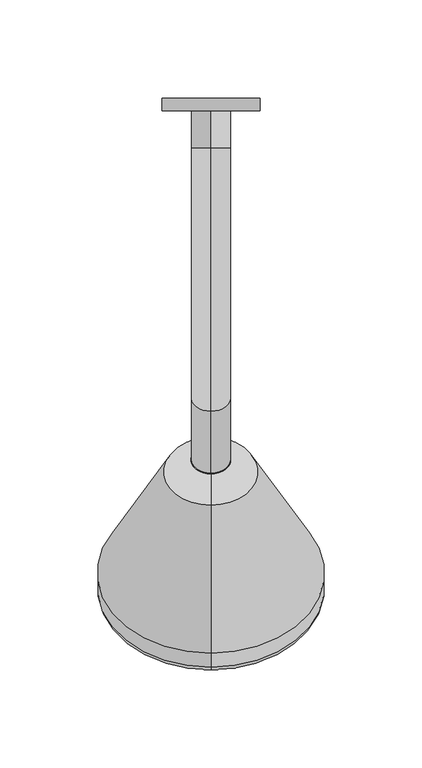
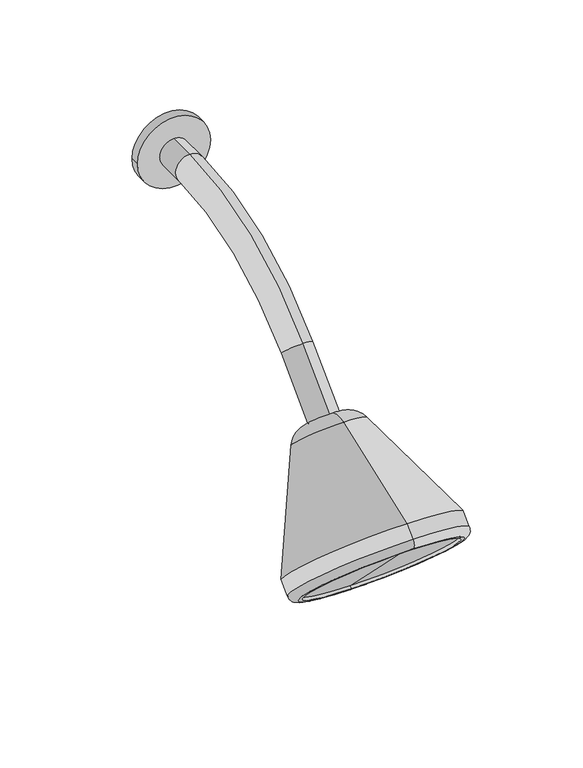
"""IFC4 building model written with IfcOpenShell, lengths in millimetres: flow terminal geometry, Regadera : Accesorios_baño."""

from ifc_helpers import new_model, si_unit, point, frame, frame_2d, origin, place, context, project, spatial, polyline, circle_curve, ellipse_curve, trimmed, segment, composite_curve, outline, extrude, source, transform, mapped, element, save
from ifc_brep_helpers import plane_surface, cylinder_surface, revolved_surface, advanced_brep


def flow_terminal_63621eee(model_context):
    return source(origin(), model_context, "Body", "SolidModel", [
        extrude(outline(composite_curve([segment(trimmed(circle_curve(frame_2d((1900.0, 125.0)), 25.0), [point((1900.0, 100.0))], [point((1900.0, 150.0))], False, "CARTESIAN"), True, "CONTINUOUS"), segment(trimmed(circle_curve(frame_2d((1900.0, 125.0)), 25.0), [point((1900.0, 150.0))], [point((1900.0, 100.0))], False, "CARTESIAN"), True, "CONTINUOUS")], self_intersect=False)), frame((0.0, -16.4821489, 0.0), z_axis=(0.0, 1.0, 0.0), x_axis=(0.0, 0.0, 1.0)), (0.0, 0.0, 1.0), 6.4821489),
        advanced_brep(
        [(125.0, -217.6624735, 1826.3331882), (125.0, -201.9255696, 1822.8444006), (125.0, -187.1555994, 1808.0744304), (125.0, -183.6668118, 1792.3375265), (125.0, -293.255056, 1798.8197382), (125.0, -211.1802618, 1716.744944), (125.0, -300.3261238, 1791.7486704), (125.0, -218.2513296, 1709.6738762), (125.0, -300.3261238, 1784.6776026), (125.0, -225.3223974, 1709.6738762), (125.0, -298.6229509, 1782.9744296), (125.0, -227.0255704, 1711.3770491), (125.0, -297.2087373, 1784.3886432), (125.0, -225.6113568, 1712.7912627), (125.0, -261.4100471, 1748.5899529), (125.0, -194.5405845, 1815.4594155)],
        [
            (0, 1, circle_curve(frame((125.0, -212.5321714, 1812.2377988), z_axis=(-1.0000000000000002, 0.0, 0.0), x_axis=(0.0, 0.0, -1.0000000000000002)), 15.0)),
            (1, 2, circle_curve(frame((125.0, -194.5405845, 1815.4594155), z_axis=(0.0, -0.7071067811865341, -0.707106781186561), x_axis=(0.0, 0.707106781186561, -0.7071067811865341)), 10.4439461)),
            (2, 3, circle_curve(frame((125.0, -197.7622012, 1797.4678286), z_axis=(-1.0000000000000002, 0.0, 0.0), x_axis=(0.0, -1.0000000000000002, 0.0)), 15.0)),
            (3, 0, circle_curve(frame((125.0, -200.6646427, 1809.3353573), z_axis=(0.0, 0.7071067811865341, 0.707106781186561), x_axis=(0.0, 0.707106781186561, -0.7071067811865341)), 24.0385629)),
            (2, 1, circle_curve(frame((125.0, -194.5405845, 1815.4594155), z_axis=(0.0, -0.7071067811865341, -0.707106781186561), x_axis=(0.0, 0.707106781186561, -0.7071067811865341)), 10.4439461)),
            (0, 3, circle_curve(frame((125.0, -200.6646427, 1809.3353573), z_axis=(0.0, 0.7071067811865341, 0.707106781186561), x_axis=(0.0, 0.707106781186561, -0.7071067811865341)), 24.0385629)),
            (4, 0),
            (3, 5),
            (5, 4, circle_curve(frame((125.0, -252.2176589, 1757.7823411), z_axis=(0.0, 0.7071067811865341, 0.707106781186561), x_axis=(0.0, 0.707106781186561, -0.7071067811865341)), 58.0356436)),
            (4, 5, circle_curve(frame((125.0, -252.2176589, 1757.7823411), z_axis=(0.0, 0.7071067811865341, 0.707106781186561), x_axis=(0.0, 0.707106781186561, -0.7071067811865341)), 58.0356436)),
            (6, 4),
            (5, 7),
            (7, 6, circle_curve(frame((125.0, -259.2887267, 1750.7112733), z_axis=(0.0, 0.7071067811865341, 0.707106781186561), x_axis=(0.0, 0.707106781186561, -0.7071067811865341)), 58.0356436)),
            (6, 7, circle_curve(frame((125.0, -259.2887267, 1750.7112733), z_axis=(0.0, 0.7071067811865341, 0.707106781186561), x_axis=(0.0, 0.707106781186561, -0.7071067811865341)), 58.0356436)),
            (8, 6, circle_curve(frame((125.0, -296.7905899, 1788.2131365), z_axis=(-1.0000000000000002, 0.0, 0.0), x_axis=(0.0, 0.0, -1.0000000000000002)), 5.0)),
            (7, 9, circle_curve(frame((125.0, -221.7868635, 1713.2094101), z_axis=(-1.0000000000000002, 0.0, 0.0), x_axis=(0.0, -1.0000000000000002, 0.0)), 5.0)),
            (9, 8, circle_curve(frame((125.0, -262.8242606, 1747.1757394), z_axis=(0.0, 0.7071067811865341, 0.707106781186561), x_axis=(0.0, 0.707106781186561, -0.7071067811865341)), 53.0356436)),
            (8, 9, circle_curve(frame((125.0, -262.8242606, 1747.1757394), z_axis=(0.0, 0.7071067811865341, 0.707106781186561), x_axis=(0.0, 0.707106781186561, -0.7071067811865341)), 53.0356436)),
            (10, 8),
            (9, 11),
            (11, 10, circle_curve(frame((125.0, -262.8242606, 1747.1757394), z_axis=(0.0, 0.7071067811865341, 0.707106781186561), x_axis=(0.0, 0.707106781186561, -0.7071067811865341)), 50.6269933)),
            (10, 11, circle_curve(frame((125.0, -262.8242606, 1747.1757394), z_axis=(0.0, 0.7071067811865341, 0.707106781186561), x_axis=(0.0, 0.707106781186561, -0.7071067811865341)), 50.6269933)),
            (12, 10),
            (11, 13),
            (13, 12, circle_curve(frame((125.0, -261.4100471, 1748.5899529), z_axis=(0.0, 0.7071067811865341, 0.707106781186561), x_axis=(0.0, 0.707106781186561, -0.7071067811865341)), 50.6269933)),
            (12, 13, circle_curve(frame((125.0, -261.4100471, 1748.5899529), z_axis=(0.0, 0.7071067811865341, 0.707106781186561), x_axis=(0.0, 0.707106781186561, -0.7071067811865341)), 50.6269933)),
            (14, 12),
            (13, 14),
            (1, 15),
            (15, 2),
        ],
        [
            revolved_surface(trimmed(ellipse_curve(frame((125.0, -197.7622012, 1797.4678286), z_axis=(-1.0000000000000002, 0.0, 0.0), x_axis=(0.0, -1.0000000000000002, 0.0)), 15.0, 15.0), [point((125.0, -187.1555994, 1808.0744304))], [point((125.0, -183.6668118, 1792.3375265))], True, "CARTESIAN"), (125.0, -194.5405845, 1815.4594155), (0.0, -0.7071067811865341, -0.707106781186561)),
            revolved_surface(polyline([(125.0, -183.6668118, 1792.3375265), (125.0, -211.1802618, 1716.744944)]), (125.0, -194.5405845, 1815.4594155), (0.0, -0.7071067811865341, -0.707106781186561)),
            cylinder_surface(frame((125.0, -194.5405845, 1815.4594155), z_axis=(0.0, -0.7071067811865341, -0.707106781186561), x_axis=(0.0, 0.707106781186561, -0.7071067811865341)), 58.0356436),
            revolved_surface(trimmed(ellipse_curve(frame((125.0, -221.7868635, 1713.2094101), z_axis=(-1.0000000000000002, 0.0, 0.0), x_axis=(0.0, -1.0000000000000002, 0.0)), 5.0, 5.0), [point((125.0, -218.2513296, 1709.6738762))], [point((125.0, -225.3223974, 1709.6738762))], True, "CARTESIAN"), (125.0, -194.5405845, 1815.4594155), (0.0, -0.7071067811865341, -0.707106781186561)),
            plane_surface(frame((125.0, -262.8242606, 1747.1757394), z_axis=(0.0, -0.7071067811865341, -0.707106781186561), x_axis=(0.0, 0.707106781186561, -0.7071067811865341))),
            revolved_surface(polyline([(125.0, -227.02557037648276, 1711.3770490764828), (125.0, -225.61135677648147, 1712.7912626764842)]), (125.0, -194.5405845, 1815.4594155), (0.0, -0.7071067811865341, -0.707106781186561)),
            plane_surface(frame((125.0, -261.4100471, 1748.5899529), z_axis=(0.0, -0.7071067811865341, -0.707106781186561), x_axis=(0.0, 0.707106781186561, -0.7071067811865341))),
            plane_surface(frame((125.0, -194.5405845, 1815.4594155), z_axis=(0.0, 0.7071067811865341, 0.707106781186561), x_axis=(0.0, 0.707106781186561, -0.7071067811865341))),
        ],
        [
            (0, [[1, 2, 3, 4]]),
            (0, [[-3, 5, -1, 6]]),
            (1, [[7, -4, 8, 9]]),
            (1, [[-8, -6, -7, 10]]),
            (2, [[11, -9, 12, 13]]),
            (2, [[-12, -10, -11, 14]]),
            (3, [[15, -13, 16, 17]]),
            (3, [[-16, -14, -15, 18]]),
            (4, [[19, -17, 20, 21]]),
            (4, [[-20, -18, -19, 22]]),
            (5, [[23, -21, 24, 25]]),
            (5, [[-24, -22, -23, 26]]),
            (6, [[27, -25, 28]]),
            (6, [[-28, -26, -27]]),
            (7, [[29, 30, -2]]),
            (7, [[-30, -29, -5]]),
        ],
    ),
        advanced_brep(
        [(125.0, -16.4821489, 1890.0), (125.0, -16.4821489, 1910.0), (125.0, -35.4415588, 1910.0), (125.0, -35.4415588, 1890.0), (125.0, -169.7918472, 1854.3502884), (125.0, -155.6497116, 1840.2081528), (125.0, -187.4695167, 1808.3883476), (125.0, -201.6116524, 1822.5304833)],
        [
            (0, 1, circle_curve(frame((125.0, -16.4821489, 1900.0), z_axis=(0.0, 1.0, 0.0), x_axis=(0.0, 0.0, 1.0)), 10.0)),
            (1, 0, circle_curve(frame((125.0, -16.4821489, 1900.0), z_axis=(0.0, 1.0, 0.0), x_axis=(0.0, 0.0, 1.0)), 10.0)),
            (1, 2),
            (2, 3, circle_curve(frame((125.0, -35.4415588, 1900.0), z_axis=(0.0, 1.0, 0.0), x_axis=(0.0, 0.0, 1.0)), 10.0)),
            (3, 0),
            (3, 2, circle_curve(frame((125.0, -35.4415588, 1900.0), z_axis=(0.0, 1.0, 0.0), x_axis=(0.0, 0.0, 1.0)), 10.0)),
            (4, 5, circle_curve(frame((125.0, -162.7207794, 1847.2792206), z_axis=(0.0, 0.7071067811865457, 0.7071067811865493), x_axis=(0.0, -0.7071067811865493, 0.7071067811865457)), 10.0)),
            (5, 3, circle_curve(frame((125.0, -35.4415588, 1720.0), z_axis=(-1.0, 0.0, 0.0), x_axis=(0.0, 0.0, 1.0)), 170.0)),
            (2, 4, circle_curve(frame((125.0, -35.4415588, 1720.0), z_axis=(1.0, 0.0, 0.0), x_axis=(0.0, 0.0, 1.0)), 190.0)),
            (5, 4, circle_curve(frame((125.0, -162.7207794, 1847.2792206), z_axis=(0.0, 0.7071067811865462, 0.7071067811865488), x_axis=(0.0, -0.7071067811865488, 0.7071067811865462)), 10.0)),
            (6, 7, circle_curve(frame((125.0, -194.5405845, 1815.4594155), z_axis=(0.0, -0.7071067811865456, -0.7071067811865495), x_axis=(0.0, -0.7071067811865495, 0.7071067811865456)), 10.0)),
            (7, 6, circle_curve(frame((125.0, -194.5405845, 1815.4594155), z_axis=(0.0, -0.7071067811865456, -0.7071067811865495), x_axis=(0.0, -0.7071067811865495, 0.7071067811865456)), 10.0)),
            (4, 7),
            (6, 5),
        ],
        [
            plane_surface(frame((125.0, -16.4821489, 1900.0), z_axis=(0.0, 1.0, 0.0), x_axis=(1.0, 0.0, 0.0))),
            cylinder_surface(frame((125.0, -16.4821489, 1900.0), z_axis=(0.0, 1.0, 0.0), x_axis=(0.0, 0.0, 1.0)), 10.0),
            revolved_surface(trimmed(ellipse_curve(frame((125.0, -35.4415588, 1900.0), z_axis=(0.0, -1.0, 0.0), x_axis=(0.0, 0.0, 1.0)), 10.0, 10.0), [point((125.0, -35.4415588, 1890.0))], [point((125.0, -35.4415588, 1910.0))], True, "CARTESIAN"), (125.0, -35.4415588, 1720.0), (-1.0, 0.0, 0.0)),
            revolved_surface(trimmed(ellipse_curve(frame((125.0, -35.4415588, 1900.0), z_axis=(0.0, -1.0, 0.0), x_axis=(0.0, 0.0, 1.0)), 10.0, 10.0), [point((125.0, -35.4415588, 1910.0))], [point((125.0, -35.4415588, 1890.0))], True, "CARTESIAN"), (125.0, -35.4415588, 1720.0), (-1.0, 0.0, 0.0)),
            plane_surface(frame((125.0, -194.5405845, 1815.4594155), z_axis=(0.0, -0.7071067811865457, -0.7071067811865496), x_axis=(1.0, 0.0, 0.0))),
            cylinder_surface(frame((125.0, -162.7207794, 1847.2792206), z_axis=(0.0, 0.7071067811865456, 0.7071067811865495), x_axis=(0.0, -0.7071067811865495, 0.7071067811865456)), 10.0),
        ],
        [
            (0, [[1, 2]]),
            (1, [[3, 4, 5, -2]]),
            (1, [[-5, 6, -3, -1]]),
            (2, [[7, 8, -4, 9]]),
            (3, [[10, -9, -6, -8]]),
            (4, [[11, 12]]),
            (5, [[13, -11, 14, -7]]),
            (5, [[-14, -12, -13, -10]]),
        ],
    ),
    ])


if __name__ == "__main__":
    model = new_model("IFC4")
    model_context = context("Model", 3, world=origin())
    ifc_project = project(units=[si_unit("LENGTHUNIT", "METRE", prefix="MILLI")], contexts=[model_context])
    site = spatial("IfcSite", under=ifc_project)
    building = spatial("IfcBuilding", under=site)
    placement = place(None, origin())
    flow_terminal_shape = flow_terminal_63621eee(model_context)
    element("IfcFlowTerminal", 1, ObjectType="Regadera : Accesorios_baño", at=placement, inside=building, context=model_context, shape_type="MappedRepresentation", body=[
        mapped(flow_terminal_shape, transform((0.0, 0.0, 0.0), x_axis=(1.0, 0.0, 0.0), y_axis=(0.0, 1.0, 0.0), z_axis=(0.0, 0.0, 1.0))),
    ])
    save(model, "model.ifc")
